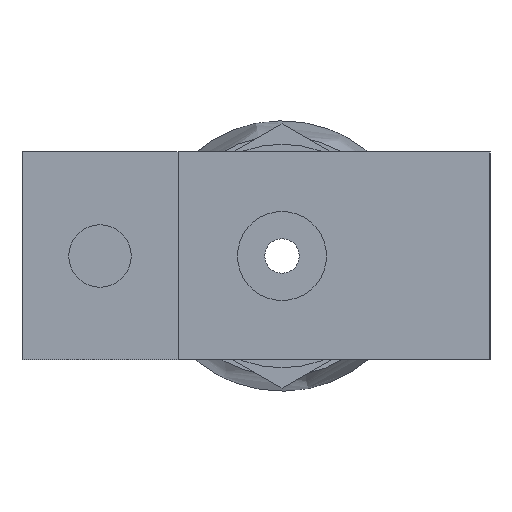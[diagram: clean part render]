
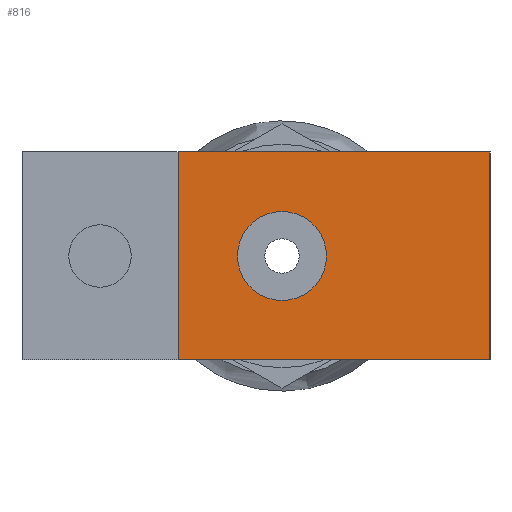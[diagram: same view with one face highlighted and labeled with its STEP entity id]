
A CAD part, left-side view. The second image highlights one B-rep face of the part: STEP entity #816.
In plain terms, the highlighted planar face has unit normal (-1, 0, 0).
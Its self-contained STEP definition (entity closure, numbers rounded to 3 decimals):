
#232 = VERTEX_POINT ( 'NONE', #11699 ) ;
#247 = VERTEX_POINT ( 'NONE', #11705 ) ;
#303 = VERTEX_POINT ( 'NONE', #11714 ) ;
#310 = VERTEX_POINT ( 'NONE', #11723 ) ;
#323 = VERTEX_POINT ( 'NONE', #11769 ) ;
#326 = VERTEX_POINT ( 'NONE', #11775 ) ;
#816 = ADVANCED_FACE ( 'NONE', ( #5302, #5303 ), #3667, .F. ) ;
#1059 = AXIS2_PLACEMENT_3D ( 'NONE', #3658, #3641, #3677 ) ;
#1670 = EDGE_CURVE ( 'NONE', #247, #232, #10145, .T. ) ;
#1690 = EDGE_CURVE ( 'NONE', #232, #247, #10123, .T. ) ;
#1775 = EDGE_CURVE ( 'NONE', #303, #326, #10290, .T. ) ;
#1784 = EDGE_CURVE ( 'NONE', #326, #323, #10256, .T. ) ;
#1794 = EDGE_CURVE ( 'NONE', #310, #323, #10301, .T. ) ;
#1807 = EDGE_CURVE ( 'NONE', #303, #310, #10337, .T. ) ;
#2066 = ORIENTED_EDGE ( 'NONE', *, *, #1807, .F. ) ;
#2086 = ORIENTED_EDGE ( 'NONE', *, *, #1794, .F. ) ;
#2102 = ORIENTED_EDGE ( 'NONE', *, *, #1670, .F. ) ;
#2111 = ORIENTED_EDGE ( 'NONE', *, *, #1784, .T. ) ;
#2128 = ORIENTED_EDGE ( 'NONE', *, *, #1690, .F. ) ;
#2136 = ORIENTED_EDGE ( 'NONE', *, *, #1775, .T. ) ;
#3641 = DIRECTION ( 'NONE',  ( 1., 0., 0. ) ) ;
#3658 = CARTESIAN_POINT ( 'NONE',  ( 0., 0., 10. ) ) ;
#3667 = PLANE ( 'NONE',  #1059 ) ;
#3677 = DIRECTION ( 'NONE',  ( 0., 0., -1. ) ) ;
#5302 = FACE_OUTER_BOUND ( 'NONE', #11349, .T. ) ;
#5303 = FACE_BOUND ( 'NONE', #11347, .T. ) ;
#8479 = AXIS2_PLACEMENT_3D ( 'NONE', #8920, #8922, #8899 ) ;
#8498 = AXIS2_PLACEMENT_3D ( 'NONE', #8879, #8878, #8853 ) ;
#8853 = DIRECTION ( 'NONE',  ( 0., 0., 1. ) ) ;
#8878 = DIRECTION ( 'NONE',  ( -1., 0., 0. ) ) ;
#8879 = CARTESIAN_POINT ( 'NONE',  ( 0., 20., 0. ) ) ;
#8899 = DIRECTION ( 'NONE',  ( 0., 0., 1. ) ) ;
#8920 = CARTESIAN_POINT ( 'NONE',  ( 0., 20., 0. ) ) ;
#8922 = DIRECTION ( 'NONE',  ( -1., 0., 0. ) ) ;
#10123 = CIRCLE ( 'NONE', #8479, 4.28 ) ;
#10145 = CIRCLE ( 'NONE', #8498, 4.28 ) ;
#10256 = LINE ( 'NONE', #10612, #10278 ) ;
#10270 = VECTOR ( 'NONE', #10604, 1000. ) ;
#10278 = VECTOR ( 'NONE', #10613, 1000. ) ;
#10290 = LINE ( 'NONE', #10634, #10270 ) ;
#10301 = LINE ( 'NONE', #10655, #10317 ) ;
#10317 = VECTOR ( 'NONE', #10656, 1000. ) ;
#10326 = VECTOR ( 'NONE', #10699, 1000. ) ;
#10337 = LINE ( 'NONE', #10691, #10326 ) ;
#10604 = DIRECTION ( 'NONE',  ( 0., 0., -1. ) ) ;
#10612 = CARTESIAN_POINT ( 'NONE',  ( 0., 0., -10. ) ) ;
#10613 = DIRECTION ( 'NONE',  ( 0., -1., 0. ) ) ;
#10634 = CARTESIAN_POINT ( 'NONE',  ( 0., 30., 10. ) ) ;
#10655 = CARTESIAN_POINT ( 'NONE',  ( 0., 0., 10. ) ) ;
#10656 = DIRECTION ( 'NONE',  ( 0., 0., -1. ) ) ;
#10691 = CARTESIAN_POINT ( 'NONE',  ( 0., 0., 10. ) ) ;
#10699 = DIRECTION ( 'NONE',  ( 0., -1., 0. ) ) ;
#11347 = EDGE_LOOP ( 'NONE', ( #2128, #2102 ) ) ;
#11349 = EDGE_LOOP ( 'NONE', ( #2111, #2086, #2066, #2136 ) ) ;
#11699 = CARTESIAN_POINT ( 'NONE',  ( 0., 20., 4.28 ) ) ;
#11705 = CARTESIAN_POINT ( 'NONE',  ( 0., 20., -4.28 ) ) ;
#11714 = CARTESIAN_POINT ( 'NONE',  ( 0., 30., 10. ) ) ;
#11723 = CARTESIAN_POINT ( 'NONE',  ( 0., 0., 10. ) ) ;
#11769 = CARTESIAN_POINT ( 'NONE',  ( 0., 0., -10. ) ) ;
#11775 = CARTESIAN_POINT ( 'NONE',  ( 0., 30., -10. ) ) ;
